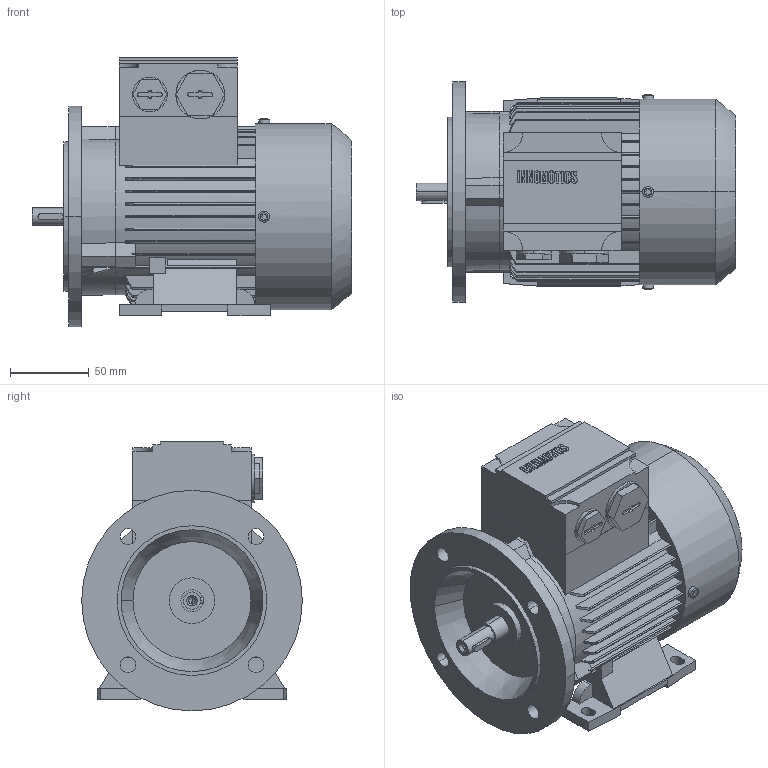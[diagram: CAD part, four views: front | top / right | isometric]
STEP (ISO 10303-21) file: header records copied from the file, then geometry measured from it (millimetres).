
FILE_DESCRIPTION(('STEP AP214'),'1');
FILE_NAME('cctmp_05AF977F-164D-4EDD-B710-700C0720A5BE_2026_04_17_12_00_09_0486_12156..stp','2026-04-17T10:00:09',('KiM GmbH'),('CADClick - www.CADClick.com'),'Spatial InterOp 3D',' ','unknown authorization');
FILE_SCHEMA(('AUTOMOTIVE_DESIGN'));
Length unit declared in the file: millimetre
Products named in the file (1): 2026_04_17_12_00_09_0486
Bounding box: 202.5 x 140 x 171.29 mm (x, y, z)
Volume: 1973134.9 mm3; surface area: 170346.4 mm2
Topology: 1 solids, 1 shells, 640 faces, 1769 edges, 1154 vertices
Faces by surface type: plane 416, cylinder 172, torus 36, cone 16
Entity records: 27133 total; most frequent: CARTESIAN_POINT 5559, ORIENTED_EDGE 3522, DIRECTION 3307, EDGE_CURVE 1755, LINE 1227, VECTOR 1227, VERTEX_POINT 1154, AXIS2_PLACEMENT_3D 1040
